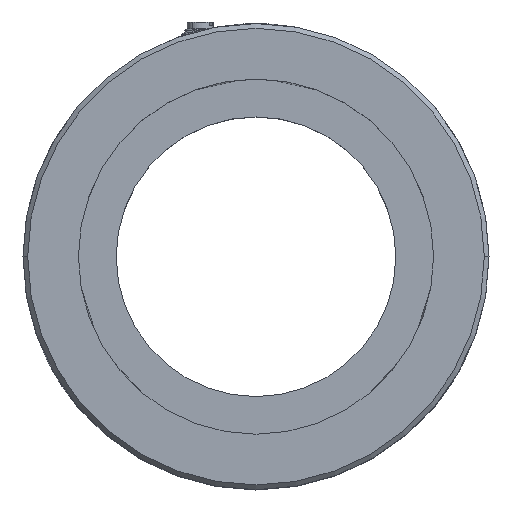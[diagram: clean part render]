
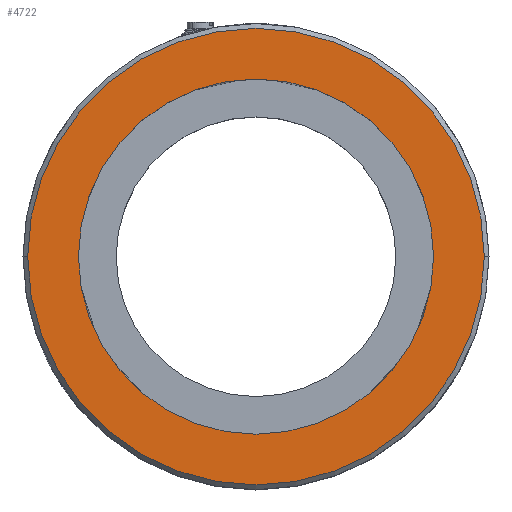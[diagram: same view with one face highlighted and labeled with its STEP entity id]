
A CAD part, top view. The second image highlights one B-rep face of the part: STEP entity #4722.
In plain terms, the highlighted planar face has unit normal (0, 0, 1).
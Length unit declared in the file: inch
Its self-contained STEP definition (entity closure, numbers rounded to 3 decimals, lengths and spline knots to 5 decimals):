
#168 = CARTESIAN_POINT ( 'NONE',  ( 0., 0., 0. ) ) ;
#354 = DIRECTION ( 'NONE',  ( 1., 0., 0. ) ) ;
#469 = CARTESIAN_POINT ( 'NONE',  ( 0., 0., 0. ) ) ;
#544 = CARTESIAN_POINT ( 'NONE',  ( 0.96425, 0., 0. ) ) ;
#546 = VERTEX_POINT ( 'NONE', #631 ) ;
#631 = CARTESIAN_POINT ( 'NONE',  ( 0.75, 0., 0. ) ) ;
#1049 = DIRECTION ( 'NONE',  ( 0., 0., 1. ) ) ;
#1155 = EDGE_LOOP ( 'NONE', ( #6600, #8460 ) ) ;
#1588 = VERTEX_POINT ( 'NONE', #5253 ) ;
#2108 = CIRCLE ( 'NONE', #6527, 0.75 ) ;
#2118 = CARTESIAN_POINT ( 'NONE',  ( 0., 0., 0. ) ) ;
#2796 = FACE_BOUND ( 'NONE', #3903, .T. ) ;
#2810 = AXIS2_PLACEMENT_3D ( 'NONE', #4290, #5632, #9052 ) ;
#3903 = EDGE_LOOP ( 'NONE', ( #7021, #8802 ) ) ;
#3948 = DIRECTION ( 'NONE',  ( 1., 0., 0. ) ) ;
#4007 = AXIS2_PLACEMENT_3D ( 'NONE', #168, #5196, #354 ) ;
#4285 = PLANE ( 'NONE',  #7666 ) ;
#4290 = CARTESIAN_POINT ( 'NONE',  ( 0., 0., 0. ) ) ;
#4553 = CARTESIAN_POINT ( 'NONE',  ( 0., 0., 0. ) ) ;
#4590 = VERTEX_POINT ( 'NONE', #4618 ) ;
#4618 = CARTESIAN_POINT ( 'NONE',  ( -0.96425, 0., 0. ) ) ;
#4629 = DIRECTION ( 'NONE',  ( 1., 0., 0. ) ) ;
#4722 = ADVANCED_FACE ( 'NONE', ( #2796, #9047 ), #4285, .T. ) ;
#5039 = CIRCLE ( 'NONE', #2810, 0.96425 ) ;
#5196 = DIRECTION ( 'NONE',  ( 0., 0., 1. ) ) ;
#5253 = CARTESIAN_POINT ( 'NONE',  ( -0.75, 0., 0. ) ) ;
#5628 = CIRCLE ( 'NONE', #7541, 0.96425 ) ;
#5632 = DIRECTION ( 'NONE',  ( 0., 0., 1. ) ) ;
#5642 = VERTEX_POINT ( 'NONE', #544 ) ;
#5939 = CIRCLE ( 'NONE', #4007, 0.75 ) ;
#6487 = EDGE_CURVE ( 'NONE', #4590, #5642, #5039, .T. ) ;
#6527 = AXIS2_PLACEMENT_3D ( 'NONE', #4553, #1049, #3948 ) ;
#6600 = ORIENTED_EDGE ( 'NONE', *, *, #6487, .T. ) ;
#6785 = DIRECTION ( 'NONE',  ( 0., 0., 1. ) ) ;
#7021 = ORIENTED_EDGE ( 'NONE', *, *, #8575, .F. ) ;
#7147 = EDGE_CURVE ( 'NONE', #5642, #4590, #5628, .T. ) ;
#7541 = AXIS2_PLACEMENT_3D ( 'NONE', #469, #6785, #4629 ) ;
#7666 = AXIS2_PLACEMENT_3D ( 'NONE', #2118, #9142, #8344 ) ;
#8107 = EDGE_CURVE ( 'NONE', #1588, #546, #5939, .T. ) ;
#8344 = DIRECTION ( 'NONE',  ( 1., 0., 0. ) ) ;
#8460 = ORIENTED_EDGE ( 'NONE', *, *, #7147, .T. ) ;
#8575 = EDGE_CURVE ( 'NONE', #546, #1588, #2108, .T. ) ;
#8802 = ORIENTED_EDGE ( 'NONE', *, *, #8107, .F. ) ;
#9047 = FACE_OUTER_BOUND ( 'NONE', #1155, .T. ) ;
#9052 = DIRECTION ( 'NONE',  ( 1., 0., 0. ) ) ;
#9142 = DIRECTION ( 'NONE',  ( 0., 0., 1. ) ) ;
